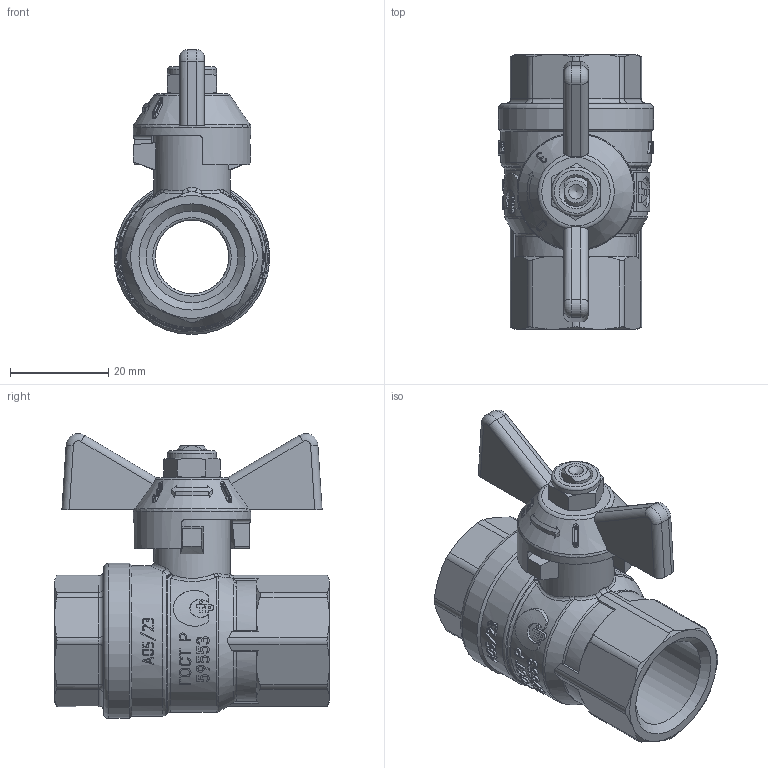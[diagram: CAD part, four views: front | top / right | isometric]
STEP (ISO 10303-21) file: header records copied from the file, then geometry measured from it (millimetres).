
FILE_DESCRIPTION(('STEP AP203'), '1');
FILE_NAME('VT.417.N.04', '2026-04-29T08:44:34', ('User'), ('Vesta'), 'C3D Converter', 'C3D Toolkit', '');
FILE_SCHEMA(('CONFIG_CONTROL_DESIGN'));
Length unit declared in the file: millimetre
Products named in the file (1): ВР.491812.006.000 СБ
Bounding box: 31.6 x 56 x 58.05 mm (x, y, z)
Volume: 28889.9 mm3; surface area: 12777.1 mm2
Topology: 1 solids, 1 shells, 1314 faces, 3674 edges, 2420 vertices
Faces by surface type: plane 718, extrusion 370, cylinder 116, cone 62, torus 32, bspline 16
Full cylindrical faces by diameter (mm): 0.644 x1, 4 x1, 10 x1, 15 x5, 15.5 x1, 18.632 x2, 24 x1, 30.6 x1, 31.6 x1
Entity records: 54660 total; most frequent: CARTESIAN_POINT 25043, ORIENTED_EDGE 7284, DIRECTION 4478, EDGE_CURVE 3642, VERTEX_POINT 2419, VECTOR 1740, B_SPLINE_CURVE_WITH_KNOTS 1410, EDGE_LOOP 1409
